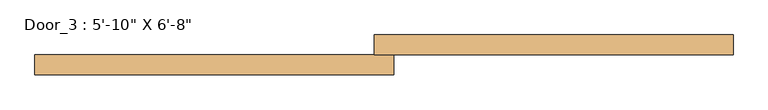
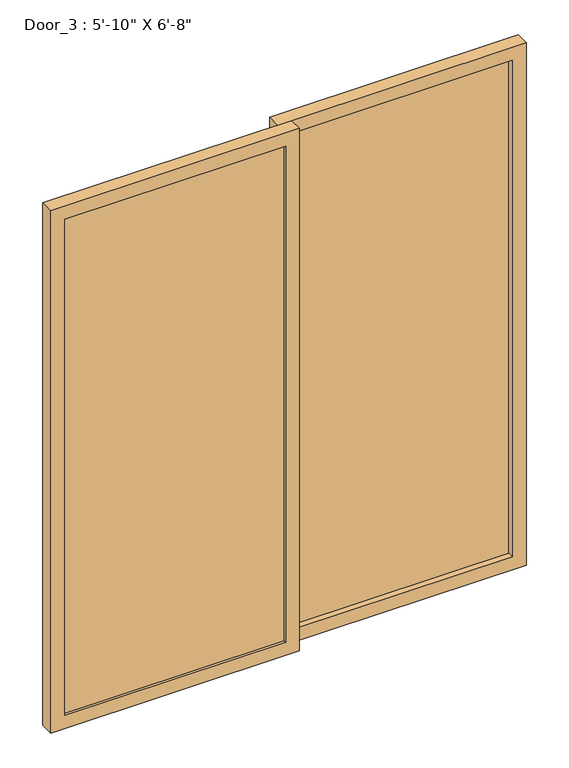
"""IFC4 building model written with IfcOpenShell, lengths in millimetres: door geometry."""

from ifc_helpers import new_model, si_unit, frame, origin, place, context, project, spatial, polyline, outline, extrude, source, transform, mapped, element, save


def door_1ca3bb58(model_context):
    return source(origin(), model_context, "Body", "SweptSolid", [
        extrude(outline(polyline([(2032.0, -25.4), (0.0, -25.4), (0.0, 889.0), (2032.0, 889.0), (2032.0, -25.4)]), holes=[polyline([(1981.2, 25.4), (1981.2, 838.2), (50.8, 838.2), (50.8, 25.4), (1981.2, 25.4)])]), frame((0.0, -158.75, 0.0), z_axis=(0.0, 1.0, 0.0), x_axis=(0.0, 0.0, 1.0)), (0.0, 0.0, 1.0), 50.8),
        extrude(outline(polyline([(2032.0, 25.4), (2032.0, -889.0), (0.0, -889.0), (0.0, 25.4), (2032.0, 25.4)]), holes=[polyline([(1981.2, -25.4), (50.8, -25.4), (50.8, -838.2), (1981.2, -838.2), (1981.2, -25.4)])]), frame((0.0, -209.55, 0.0), z_axis=(0.0, 1.0, 0.0), x_axis=(0.0, 0.0, 1.0)), (0.0, 0.0, 1.0), 50.8),
        extrude(outline(polyline([(25.4, -136.525), (25.4, -130.175), (838.2, -130.175), (838.2, -136.525), (25.4, -136.525)])), frame((0.0, 0.0, 50.8), z_axis=(0.0, 0.0, 1.0), x_axis=(1.0, 0.0, 0.0)), (0.0, 0.0, 1.0), 1930.4),
        extrude(outline(polyline([(-25.4, -187.325), (-25.4, -200.025), (-838.2, -200.025), (-838.2, -187.325), (-25.4, -187.325)])), frame((0.0, 0.0, 50.8), z_axis=(0.0, 0.0, 1.0), x_axis=(1.0, 0.0, 0.0)), (0.0, 0.0, 1.0), 1930.4),
    ])


if __name__ == "__main__":
    model = new_model("IFC4")
    model_context = context("Model", 3, world=origin())
    ifc_project = project(units=[si_unit("LENGTHUNIT", "METRE", prefix="MILLI")], contexts=[model_context])
    site = spatial("IfcSite", under=ifc_project)
    building = spatial("IfcBuilding", under=site)
    placement = place(None, origin())
    door_shape = door_1ca3bb58(model_context)
    element("IfcDoor", 1, ObjectType="Door_3 : 5'-10\" X 6'-8\"", at=placement, inside=building, context=model_context, shape_type="MappedRepresentation", body=[
        mapped(door_shape, transform((0.0, 0.0, 0.0), x_axis=(1.0, 0.0, 0.0), y_axis=(0.0, 1.0, 0.0), z_axis=(0.0, 0.0, 1.0))),
    ])
    save(model, "model.ifc")
